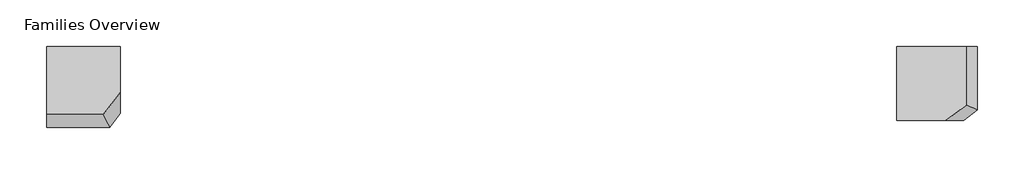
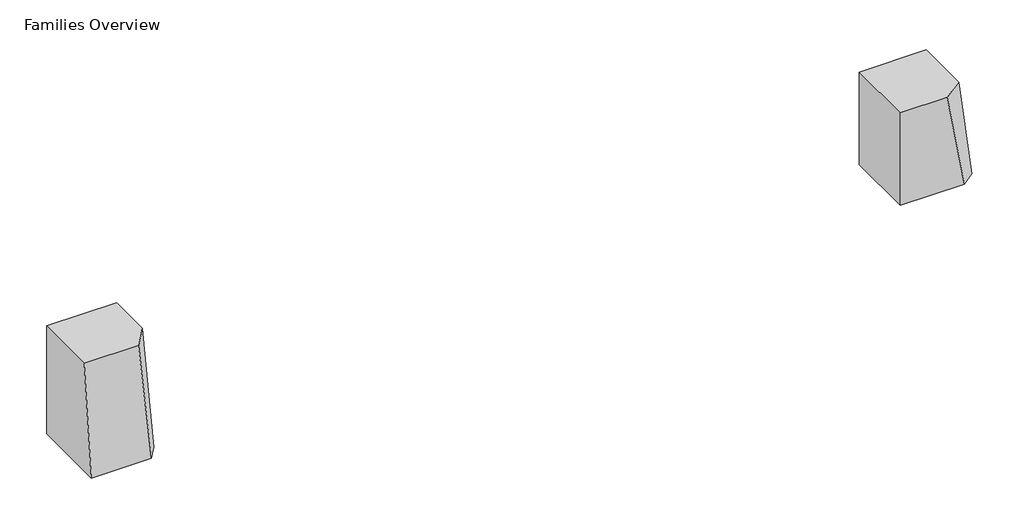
# One storey, incomplete: 2 furniture elements.
"""IFC4 building model written with IfcOpenShell, lengths in millimetres."""

from ifc_helpers import new_model, si_unit, origin, place, context, project, spatial, transform, mapped, element, save
from components import bevel_high_d706fb7b, bevel_medium_06367e77

model = new_model("IFC4")

# Units and contexts
model_context = context("Model", 3, world=origin())
ifc_project = project(units=[si_unit("LENGTHUNIT", "METRE", prefix="MILLI")], contexts=[model_context])

# Site, building, storey
site = spatial("IfcSite", under=ifc_project)
building = spatial("IfcBuilding", under=site)
storey = spatial("IfcBuildingStorey", under=building, Name="Families Overview", Elevation=0.0)

# Furniture
placement = place(None, origin())
bevel_high_shape = bevel_high_d706fb7b(model_context)
element("IfcFurniture", 1, ObjectType="Coalesse_AM_Table_Occasional_Trees : Bevel High", at=placement, inside=storey, context=model_context, shape_type="MappedRepresentation", body=[
    mapped(bevel_high_shape, transform((-9143.2900067, 9712.3787401, 0.0), x_axis=(1.0, 0.0, 0.0), y_axis=(0.0, 1.0, 0.0), z_axis=(0.0, 0.0, 1.0))),
])
bevel_medium_shape = bevel_medium_06367e77(model_context)
element("IfcFurniture", 2, ObjectType="Coalesse_AM_Table_Occasional_Trees : Bevel Medium", at=placement, inside=storey, context=model_context, shape_type="MappedRepresentation", body=[
    mapped(bevel_medium_shape, transform((-5028.4900067, 9712.3787401, 0.0), x_axis=(1.0, 0.0, 0.0), y_axis=(0.0, 1.0, 0.0), z_axis=(0.0, 0.0, 1.0))),
])

save(model, "model.ifc")
